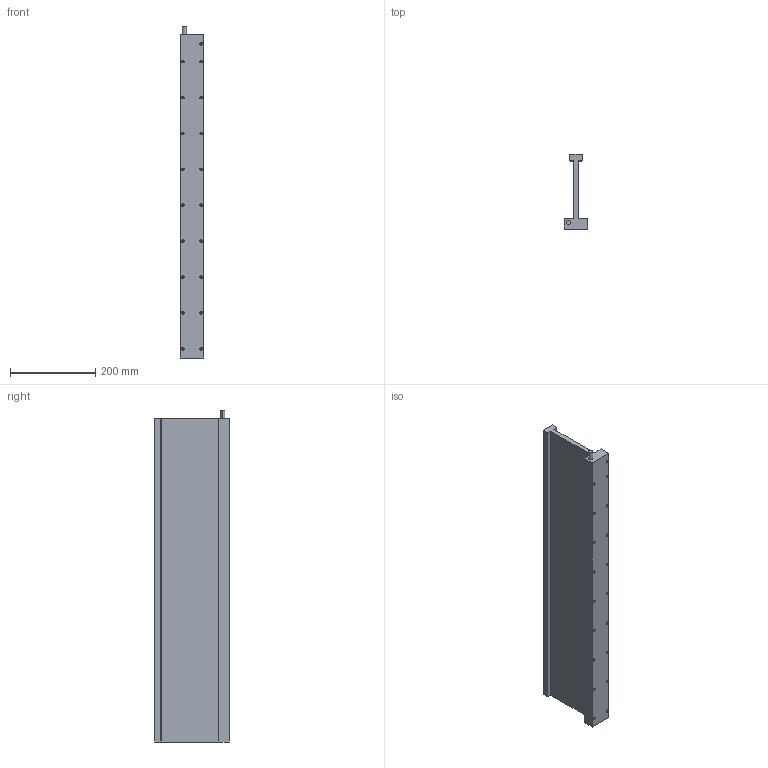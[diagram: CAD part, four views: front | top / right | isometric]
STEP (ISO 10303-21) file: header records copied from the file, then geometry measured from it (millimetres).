
FILE_DESCRIPTION (( 'STEP AP214' ), '1' );
FILE_NAME ('JKA6-4.STEP', '2025-09-05T12:53:31', ( '' ), ( '' ), 'SwSTEP 2.0', 'SolidWorks 2016', '' );
FILE_SCHEMA (( 'AUTOMOTIVE_DESIGN' ));
Length unit declared in the file: millimetre
Products named in the file (1): JKA6-4
Bounding box: 55.1 x 175.5 x 777 mm (x, y, z)
Volume: 2488525.5 mm3; surface area: 387621.5 mm2
Topology: 1 solids, 1 shells, 131 faces, 308 edges, 161 vertices
Faces by surface type: cone 76, cylinder 40, plane 15
Entity records: 3878 total; most frequent: DIRECTION 652, CARTESIAN_POINT 563, ORIENTED_EDGE 540, EDGE_CURVE 270, AXIS2_PLACEMENT_3D 250, VERTEX_POINT 161, LINE 152, VECTOR 152
